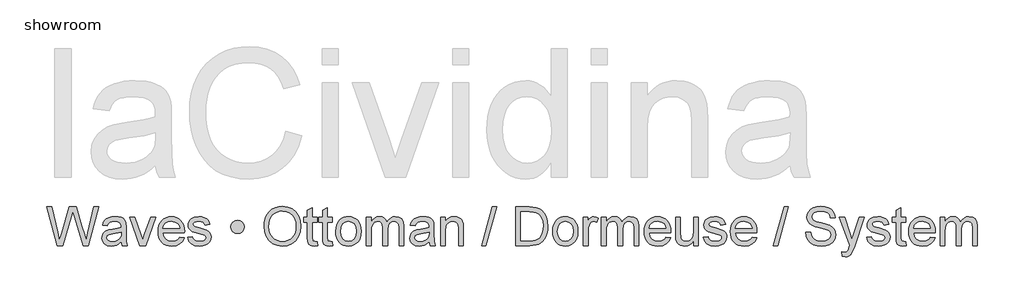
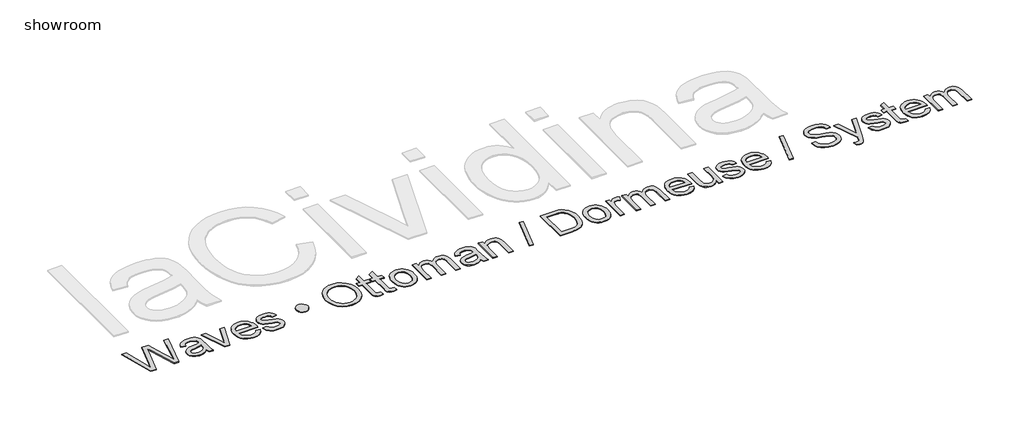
# One storey, part 2 of 3: 1 proxy.
"""IFC4 building model written with IfcOpenShell, lengths in millimetres."""

import ifcopenshell
import ifcopenshell.guid

model = None  # the IFC model being written
_history = None  # IfcOwnerHistory: only IFC2X3 demands one
_inside = {}  # id of a spatial element -> (the spatial element, [elements in it])
_under = {}  # id of a project, library or spatial element -> (it, [spatial elements below it])
_declared = {}  # id of a project -> (the project, [libraries it declares])
_typed = {}  # id of a type object -> (the type object, [elements of that type])
_made_of = {}  # id of a material, layer set ... -> (it, [elements and type objects made of it])


def new_model(schema):
    """Start an empty IFC model of exactly this schema.

    Asked for "IFC4X3", IfcOpenShell would pick the latest addendum, in which some entities
    have other attributes; the version numbers below select the first issue.
    IFC2X3 requires an IfcOwnerHistory on every rooted entity: one is made here for all.
    """
    global model, _history
    if schema == "IFC4X3":
        model = ifcopenshell.file(schema_version=(4, 3, 0, 0))
    else:
        model = ifcopenshell.file(schema=schema)
    _inside.clear()
    _under.clear()
    _declared.clear()
    _typed.clear()
    _made_of.clear()
    _history = None
    if model.schema == "IFC2X3":
        org = make("IfcOrganization", Name="unknown")
        user = make(
            "IfcPersonAndOrganization",
            ThePerson=make("IfcPerson", FamilyName="unknown"),
            TheOrganization=org,
        )
        app = make(
            "IfcApplication",
            ApplicationDeveloper=org,
            Version="unknown",
            ApplicationFullName="unknown",
            ApplicationIdentifier="unknown",
        )
        _history = make(
            "IfcOwnerHistory",
            OwningUser=user,
            OwningApplication=app,
            ChangeAction="ADDED",
            CreationDate=0,
        )
    return model


def make(cls, **values):
    """One entity of the class cls with the attributes given. An attribute that is None is left unset."""
    return model.create_entity(
        cls, **{name: value for name, value in values.items() if value is not None}
    )


def rooted(cls, **values):
    """An entity with a GlobalId (a new one), such as an element, a storey or a relation."""
    return make(cls, GlobalId=ifcopenshell.guid.new(), OwnerHistory=_history, **values)


def si_unit(unit_type, name, prefix=None):
    """IfcSIUnit, for example si_unit("LENGTHUNIT", "METRE", prefix="MILLI")."""
    return make("IfcSIUnit", UnitType=unit_type, Prefix=prefix, Name=name)


def assignment(units):
    """IfcUnitAssignment: the units of a project."""
    return None if units is None else make("IfcUnitAssignment", Units=units)


def point(xyz):
    """IfcCartesianPoint."""
    return None if xyz is None else make("IfcCartesianPoint", Coordinates=xyz)


def direction(xyz):
    """IfcDirection."""
    return None if xyz is None else make("IfcDirection", DirectionRatios=xyz)


def frame(location, z_axis=None, x_axis=None):
    """IfcAxis2Placement3D, a coordinate frame: its origin and axes. An axis left out is left unset."""
    return make(
        "IfcAxis2Placement3D",
        Location=point(location),
        Axis=direction(z_axis),
        RefDirection=direction(x_axis),
    )


def origin():
    """The frame at (0, 0, 0) with its axes left unset."""
    return frame((0.0, 0.0, 0.0))


def origin_with_axes():
    """The frame at (0, 0, 0) with the z axis (0, 0, 1) and the x axis (1, 0, 0) written out."""
    return frame((0.0, 0.0, 0.0), z_axis=(0.0, 0.0, 1.0), x_axis=(1.0, 0.0, 0.0))


def place(relative_to, where):
    """IfcLocalPlacement: puts the frame where relative to a parent placement (None: the world)."""
    return make(
        "IfcLocalPlacement", PlacementRelTo=relative_to, RelativePlacement=where
    )


def context(
    kind, dimensions, precision=None, world=None, true_north=None, identifier=None
):
    """IfcGeometricRepresentationContext, for example the 3D "Model" context."""
    return make(
        "IfcGeometricRepresentationContext",
        ContextIdentifier=identifier,
        ContextType=kind,
        CoordinateSpaceDimension=dimensions,
        Precision=precision,
        WorldCoordinateSystem=world,
        TrueNorth=true_north,
    )


def project(units=None, contexts=None):
    """IfcProject with its units and contexts."""
    return rooted(
        "IfcProject",
        Name="project",
        RepresentationContexts=contexts,
        UnitsInContext=assignment(units),
    )


def spatial(cls, under=None, at=None, **own):
    """A site, building, storey or space (cls), placed at a placement, below another one or the project."""
    s = rooted(cls, ObjectPlacement=at, **own)
    if under is not None:
        _under.setdefault(under.id(), (under, []))[1].append(s)
    return s


def polyline(points):
    """IfcPolyline through the points."""
    return make("IfcPolyline", Points=[point(p) for p in points])


def outline(outer, holes=None, kind="AREA"):
    """IfcArbitraryClosedProfileDef: a profile drawn as a closed curve; with holes, ...WithVoids."""
    if holes is None:
        return make("IfcArbitraryClosedProfileDef", ProfileType=kind, OuterCurve=outer)
    return make(
        "IfcArbitraryProfileDefWithVoids",
        ProfileType=kind,
        OuterCurve=outer,
        InnerCurves=holes,
    )


def extrude(swept, where, along, depth):
    """IfcExtrudedAreaSolid: the profile swept, set in the frame where, extruded along a direction by depth."""
    return make(
        "IfcExtrudedAreaSolid",
        SweptArea=swept,
        Position=where,
        ExtrudedDirection=direction(along),
        Depth=depth,
    )


def shape(context_of_items, identifier, shape_type, items):
    """IfcShapeRepresentation: the items that make up one representation, for example the "Body"."""
    return make(
        "IfcShapeRepresentation",
        ContextOfItems=context_of_items,
        RepresentationIdentifier=identifier,
        RepresentationType=shape_type,
        Items=items,
    )


def made_of(thing, what):
    """Note that an element or type object is made of a material, layer set ...; save() writes the relation."""
    if what is not None:
        _made_of.setdefault(what.id(), (what, []))[1].append(thing)
    return thing


def element(
    cls,
    number,
    at=None,
    inside=None,
    cuts=None,
    type_object=None,
    material=None,
    context=None,
    identifier="Body",
    shape_type=None,
    held_by="IfcProductDefinitionShape",
    body=None,
    shapes=None,
    **own,
):
    """One element of the class cls, such as IfcWall. Its Tag is "e" and its number.

    at: its placement. inside: the storey or other place that contains it. cuts: it is an
    opening in that element (IfcRelVoidsElement). A single representation is given by context,
    identifier, shape_type and body (its items); several are given by shapes. held_by: the class
    of the entity that holds the representations. save() writes the other relations.
    """
    e = rooted(cls, Tag="e%d" % number, ObjectPlacement=at, **own)
    if body is not None:
        shapes = [shape(context, identifier, shape_type, body)]
    if shapes is not None:
        e.Representation = make(held_by, Representations=shapes)
    if inside is not None:
        _inside.setdefault(inside.id(), (inside, []))[1].append(e)
    if cuts is not None:
        rooted(
            "IfcRelVoidsElement", RelatingBuildingElement=cuts, RelatedOpeningElement=e
        )
    if type_object is not None:
        _typed.setdefault(type_object.id(), (type_object, []))[1].append(e)
    return made_of(e, material)


def aggregate(whole, parts):
    """IfcRelAggregates: a whole, such as a stair, and the parts it consists of."""
    return rooted("IfcRelAggregates", RelatingObject=whole, RelatedObjects=parts)


def save(model, path):
    """Write the relations noted so far, then the file.

    IfcRelAggregates (storeys below a building ...), IfcRelContainedInSpatialStructure (elements
    in a storey), IfcRelDefinesByType, IfcRelAssociatesMaterial and IfcRelDeclares: one each for
    every whole, place, type object, material and project.
    """
    for whole, parts in _under.values():
        aggregate(whole, parts)
    for where, things in _inside.values():
        rooted(
            "IfcRelContainedInSpatialStructure",
            RelatedElements=things,
            RelatingStructure=where,
        )
    for kind, things in _typed.values():
        rooted("IfcRelDefinesByType", RelatedObjects=things, RelatingType=kind)
    for what, things in _made_of.values():
        rooted("IfcRelAssociatesMaterial", RelatedObjects=things, RelatingMaterial=what)
    for by, libraries in _declared.values():
        rooted("IfcRelDeclares", RelatingContext=by, RelatedDefinitions=libraries)
    model.write(path)


model = new_model("IFC4")

# Units and contexts
model_context = context("Model", 3, world=origin())
ifc_project = project(units=[si_unit("LENGTHUNIT", "METRE", prefix="MILLI")], contexts=[model_context])

# Site, building, storey
site = spatial("IfcSite", under=ifc_project)
building = spatial("IfcBuilding", under=site)
storey = spatial("IfcBuildingStorey", under=building, Name="showroom", Elevation=0.0)

# Proxy
placement = place(None, origin())
element("IfcBuildingElementProxy", 1, Name="300mm Arial", ObjectType="300mm Arial", at=placement, inside=storey, context=model_context, shape_type="SweptSolid", body=[
    extrude(outline(polyline([(-1936.4305971, 4160.1020807), (-2018.6154349, 4461.4710111), (-1979.7670962, 4461.4710111), (-1932.0895896, 4263.4033449), (-1917.3743098, 4202.2613573), (-1901.6289604, 4256.3400106), (-1841.8849244, 4461.4710111), (-1785.8932847, 4461.4710111), (-1742.4832093, 4312.7731087), (-1723.8867744, 4257.5908094), (-1710.1831701, 4202.2613573), (-1695.9093487, 4261.6375113), (-1647.7903837, 4461.4710111), (-1608.942045, 4461.4710111), (-1691.2004592, 4160.1020807), (-1731.4467494, 4160.1020807), (-1803.6987733, 4392.6035016), (-1813.77874, 4425.0506936), (-1825.1095054, 4385.9816257), (-1890.9603825, 4160.1020807), (-1936.4305971, 4160.1020807)])), origin_with_axes(), (0.0, 0.0, 1.0), 5.0),
    extrude(outline(polyline([(-1434.7131321, 4188.3554179), (-1452.7117587, 4172.9227682), (-1471.2438142, 4162.8244074), (-1490.7323629, 4157.2509952), (-1511.6004691, 4155.3931911), (-1543.0819708, 4159.8629574), (-1566.3045218, 4173.2722561), (-1580.6243285, 4193.6345245), (-1585.3975973, 4218.9631999), (-1583.5949756, 4234.5797906), (-1578.1871102, 4248.7616415), (-1569.845386, 4260.9017474), (-1559.2411875, 4270.3931028), (-1532.8640484, 4282.7539379), (-1500.2697037, 4288.4193206), (-1461.7524588, 4294.3790089), (-1434.9338613, 4301.3687668), (-1434.7131321, 4309.7564763), (-1437.3067002, 4326.5686835), (-1445.0874044, 4337.5683551), (-1462.4882228, 4345.7353354), (-1486.7316462, 4348.4576622), (-1509.1724479, 4346.6458434), (-1524.8442209, 4341.2103869), (-1535.5311929, 4331.1580114), (-1543.0175915, 4315.4954354), (-1580.6887078, 4320.204325), (-1574.1496053, 4340.8057167), (-1564.3915354, 4356.9925245), (-1550.5039901, 4369.3717536), (-1531.5764614, 4378.5504094), (-1508.4274869, 4384.2341862), (-1481.8756039, 4386.1287785), (-1456.4089728, 4384.4549154), (-1436.2214483, 4379.4333262), (-1421.0003307, 4371.8825482), (-1410.4329204, 4362.621119), (-1403.4247684, 4351.1707919), (-1398.8814258, 4337.0533204), (-1397.0420158, 4304.0910936), (-1397.0420158, 4257.2229274), (-1395.1290294, 4191.7767205), (-1387.6242367, 4160.1020807), (-1425.295353, 4160.1020807), (-1434.7131321, 4188.3554179)]), holes=[polyline([(-1434.7131321, 4263.6976505), (-1495.4872377, 4252.1461559), (-1527.8976415, 4246.0393147), (-1542.5761331, 4236.1065009), (-1547.726481, 4221.6119503), (-1544.9213808, 4210.4099435), (-1536.5060802, 4201.2312877), (-1522.6645201, 4195.1060525), (-1503.5806416, 4193.0643074), (-1483.3471319, 4195.3175847), (-1465.4680669, 4202.0774163), (-1450.9735163, 4212.0378213), (-1440.8935496, 4223.8928186), (-1436.4237834, 4236.1065009), (-1434.9338613, 4253.0290727), (-1434.7131321, 4263.6976505)])]), origin_with_axes(), (0.0, 0.0, 1.0), 5.0),
    extrude(outline(polyline([(-1290.9448484, 4160.1020807), (-1368.7886786, 4381.419889), (-1328.9102703, 4381.419889), (-1281.7477985, 4248.8352179), (-1267.5475535, 4204.2479201), (-1253.6416141, 4246.3336203), (-1206.1848367, 4381.419889), (-1166.3064284, 4381.419889), (-1243.1937654, 4160.1020807), (-1290.9448484, 4160.1020807)])), origin_with_axes(), (0.0, 0.0, 1.0), 5.0),
    extrude(outline(polyline([(-978.3923053, 4226.0265342), (-941.456953, 4221.3176447), (-954.7650842, 4193.4873717), (-976.0010723, 4172.6836449), (-1004.6866709, 4159.7158046), (-1040.3436333, 4155.3931911), (-1063.7179356, 4157.257893), (-1084.544655, 4162.8519986), (-1102.8237916, 4172.1755079), (-1118.5553455, 4185.2284209), (-1131.2058876, 4201.6474542), (-1140.2419891, 4221.0693243), (-1145.66365, 4243.4940312), (-1147.4708703, 4268.9215748), (-1145.6452559, 4295.2113419), (-1140.1684127, 4318.3833091), (-1131.0403407, 4338.4374764), (-1118.2610399, 4355.3738437), (-1102.5708728, 4368.8291277), (-1084.7102019, 4378.4400448), (-1064.6790273, 4384.2065951), (-1042.4773489, 4386.1287785), (-1020.9907411, 4384.2111936), (-1001.5596739, 4378.4584389), (-984.1841475, 4368.8705144), (-968.8641616, 4355.4474201), (-956.3584731, 4338.547841), (-947.4258384, 4318.5304619), (-942.0662575, 4295.3952829), (-940.2797306, 4269.142304), (-940.5004598, 4258.988761), (-1109.799754, 4258.988761), (-1103.2790456, 4230.790606), (-1088.1315045, 4210.0604556), (-1066.2701169, 4197.3133445), (-1039.6078693, 4193.0643074), (-1019.5583006, 4195.0324761), (-1002.672517, 4200.9369821), (-988.9505186, 4211.1457075), (-978.3923053, 4226.0265342)]), holes=[polyline([(-1109.799754, 4296.6598773), (-977.9508469, 4296.6598773), (-983.0460125, 4316.5622932), (-993.0340087, 4330.7993264), (-1014.9965638, 4344.0430783), (-1042.6245017, 4348.4576622), (-1068.0175564, 4344.9351921), (-1089.0144213, 4334.3677818), (-1103.6101394, 4317.8958655), (-1109.799754, 4296.6598773)])]), origin_with_axes(), (0.0, 0.0, 1.0), 5.0),
    extrude(outline(polyline([(-916.7352829, 4226.0265342), (-879.0641666, 4230.7354237), (-873.1228724, 4214.6221924), (-861.62656, 4202.7763921), (-844.5016532, 4195.4923286), (-821.6745754, 4193.0643074), (-799.1234091, 4195.2899935), (-783.2676951, 4201.9670517), (-773.8867042, 4211.6423482), (-770.7597072, 4222.862749), (-773.9050983, 4232.4644691), (-783.3412715, 4239.7853208), (-822.1160338, 4250.5274751), (-878.8434374, 4268.958363), (-893.2000323, 4278.2197923), (-903.6018957, 4290.4794598), (-909.920269, 4304.9556163), (-912.0263934, 4320.8665126), (-910.3341362, 4335.4622307), (-905.2573647, 4348.9359088), (-897.2559313, 4360.7541179), (-886.7896885, 4370.3834291), (-862.8405706, 4381.5302536), (-830.4301668, 4386.1287785), (-805.9108319, 4384.2801715), (-784.5920702, 4378.7343504), (-767.4487693, 4370.0339412), (-755.4558162, 4358.7215699), (-747.5095651, 4343.9603048), (-742.50637, 4324.9132145), (-780.1774863, 4320.204325), (-784.9323611, 4332.0593223), (-794.3409431, 4340.9896577), (-808.4952029, 4346.5906611), (-827.4871109, 4348.4576622), (-849.1185722, 4346.6734345), (-863.5395464, 4341.3207515), (-871.6513444, 4333.5952296), (-874.3552771, 4324.6924853), (-869.8671167, 4313.7296019), (-855.8140245, 4305.4154688), (-823.3668325, 4297.3956413), (-768.0741687, 4279.6637291), (-753.4692535, 4271.1840491), (-742.3960054, 4259.5773722), (-735.4154445, 4244.8069101), (-733.0885909, 4226.8358746), (-735.8201147, 4208.2578338), (-744.0146862, 4190.7834391), (-757.3596056, 4175.7830507), (-775.5421732, 4164.6270292), (-797.5047283, 4157.7016507), (-822.1896102, 4155.3931911), (-860.1734262, 4159.8445633), (-887.8933345, 4173.1986797), (-906.3977988, 4195.3083876), (-916.7352829, 4226.0265342)])), origin_with_axes(), (0.0, 0.0, 1.0), 5.0),
    extrude(outline(polyline([(-577.6952362, 4306.1512328), (-573.8876575, 4326.0444516), (-562.4649216, 4342.7554913), (-545.7262908, 4354.0954538), (-525.9710276, 4357.8754413), (-506.1053999, 4354.0954538), (-489.3299809, 4342.7554913), (-477.907245, 4326.0444516), (-474.0996663, 4306.1512328), (-477.907245, 4286.285605), (-489.3299809, 4269.510186), (-506.1053999, 4258.0874501), (-525.9710276, 4254.2798714), (-545.7262908, 4258.0874501), (-562.4649216, 4269.510186), (-573.8876575, 4286.285605), (-577.6952362, 4306.1512328)])), origin_with_axes(), (0.0, 0.0, 1.0), 5.0),
    extrude(outline(polyline([(-318.7063116, 4306.8134203), (-316.1955169, 4342.1622816), (-308.6631331, 4373.4552438), (-296.10916, 4400.692307), (-278.5335977, 4423.8734712), (-256.9895083, 4442.3825341), (-232.5299542, 4455.6032933), (-205.1549352, 4463.5357488), (-174.8644514, 4466.1799007), (-135.3355311, 4461.2134937), (-99.8901008, 4446.3142729), (-70.4595412, 4422.5307019), (-48.9752327, 4390.9112444), (-35.8418455, 4352.9826107), (-31.4640497, 4310.2715111), (-36.0717717, 4266.9901944), (-49.8949377, 4228.5281318), (-72.1701925, 4196.853492), (-102.134181, 4173.9344437), (-137.2761086, 4160.0285043), (-175.0851806, 4155.3931911), (-215.2211063, 4160.5159479), (-250.8688716, 4175.8842183), (-280.2258549, 4200.1092476), (-301.4894342, 4231.8022815), (-314.4020922, 4268.2685843), (-318.7063116, 4306.8134203)]), holes=[polyline([(-281.0351952, 4306.4455384), (-279.1520993, 4281.4709494), (-273.5028114, 4259.3014607), (-264.0873316, 4239.9370721), (-250.9056598, 4223.3777838), (-234.8820997, 4210.1156379), (-216.9409546, 4200.6426765), (-197.0822247, 4194.9588997), (-175.3059098, 4193.0643074), (-153.1571145, 4194.9772938), (-133.0638597, 4200.7162529), (-115.0261457, 4210.2811848), (-99.0439722, 4223.6720894), (-85.9588695, 4240.5808656), (-76.6123676, 4260.6994123), (-71.0044664, 4284.0277293), (-69.135166, 4310.5658167), (-72.3357394, 4343.9143196), (-81.9374595, 4372.7378739), (-97.6920059, 4396.3099127), (-119.3510584, 4413.9038691), (-145.4798771, 4424.8575556), (-174.6437222, 4428.5087844), (-195.6635797, 4426.7498486), (-215.165924, 4421.4730412), (-233.150755, 4412.6783622), (-249.6180729, 4400.3658117), (-263.3630639, 4383.9421799), (-273.1809146, 4362.8142571), (-279.0716251, 4336.9820432), (-281.0351952, 4306.4455384)])]), origin_with_axes(), (0.0, 0.0, 1.0), 5.0),
    extrude(outline(polyline([(95.6759678, 4191.5192031), (100.3848574, 4158.9984347), (72.2050965, 4155.3931911), (54.1236965, 4156.9566896), (40.6408213, 4161.6471851), (31.1126777, 4168.8760663), (24.8954719, 4178.054722), (21.4741694, 4193.8184655), (20.3337352, 4220.8026099), (20.3337352, 4343.7487727), (-7.919602, 4343.7487727), (-7.919602, 4381.419889), (20.3337352, 4381.419889), (20.3337352, 4435.2042367), (58.0048515, 4457.3507328), (58.0048515, 4381.419889), (95.6759678, 4381.419889), (95.6759678, 4343.7487727), (58.0048515, 4343.7487727), (58.0048515, 4221.9062559), (59.9914143, 4202.4820865), (66.4293492, 4195.6026932), (79.2684308, 4193.0643074), (95.6759678, 4191.5192031)])), origin_with_axes(), (0.0, 0.0, 1.0), 5.0),
    extrude(outline(polyline([(213.3982063, 4191.5192031), (218.1070958, 4158.9984347), (189.927335, 4155.3931911), (171.8459349, 4156.9566896), (158.3630598, 4161.6471851), (148.8349161, 4168.8760663), (142.6177104, 4178.054722), (139.1964078, 4193.8184655), (138.0559737, 4220.8026099), (138.0559737, 4343.7487727), (109.8026364, 4343.7487727), (109.8026364, 4381.419889), (138.0559737, 4381.419889), (138.0559737, 4435.2042367), (175.72709, 4457.3507328), (175.72709, 4381.419889), (213.3982063, 4381.419889), (213.3982063, 4343.7487727), (175.72709, 4343.7487727), (175.72709, 4221.9062559), (177.7136527, 4202.4820865), (184.1515877, 4195.6026932), (196.9906693, 4193.0643074), (213.3982063, 4191.5192031)])), origin_with_axes(), (0.0, 0.0, 1.0), 5.0),
    extrude(outline(polyline([(241.6515435, 4270.7609848), (243.68869, 4299.4235908), (249.8001297, 4324.1222682), (259.9858624, 4344.8570172), (274.2458883, 4361.6278376), (288.6024831, 4372.3469993), (304.4490001, 4380.0035433), (321.7854391, 4384.5974697), (340.6118002, 4386.1287785), (361.3948337, 4384.2640766), (380.1867058, 4378.6699711), (396.9874167, 4369.3464617), (411.7969663, 4356.2935487), (423.8841891, 4339.9526903), (432.5179196, 4320.765345), (437.698158, 4298.7315128), (439.4249041, 4273.8511936), (436.3714835, 4235.7938012), (427.2112219, 4206.8230941), (412.2108335, 4185.1272534), (391.6370329, 4168.8944604), (367.2004714, 4158.7685084), (340.6118002, 4155.3931911), (319.5252641, 4157.2509952), (300.558648, 4162.8244074), (283.7119519, 4172.1134278), (268.9851757, 4185.1180563), (257.0267116, 4201.6175638), (248.4849516, 4221.3912211), (243.3598955, 4244.4390281), (241.6515435, 4270.7609848)]), holes=[polyline([(279.3226598, 4270.8345612), (283.6820615, 4236.7410973), (296.7602664, 4212.4516886), (316.4419531, 4197.9111527), (340.6118002, 4193.0643074), (364.6712827, 4197.9387439), (384.3161812, 4212.5620532), (397.3943862, 4237.1733587), (401.7537878, 4272.0117836), (397.366795, 4305.1119661), (384.2058166, 4329.0702811), (364.5333269, 4343.6108169), (340.6118002, 4348.4576622), (316.4419531, 4343.629211), (296.7602664, 4329.1438575), (283.6820615, 4304.909631), (279.3226598, 4270.8345612)])]), origin_with_axes(), (0.0, 0.0, 1.0), 5.0),
    extrude(outline(polyline([(481.80491, 4160.1020807), (481.80491, 4381.419889), (519.4760263, 4381.419889), (519.4760263, 4344.9995714), (530.8067917, 4361.7290052), (545.3749187, 4374.8348013), (562.6837666, 4383.3052842), (582.2366946, 4386.1287785), (603.1875743, 4383.2501019), (619.9813873, 4374.6140721), (632.5261634, 4360.7909061), (640.7299319, 4342.3508211), (654.4611273, 4361.5036775), (670.1237033, 4375.1842892), (687.7176597, 4383.3926562), (707.2429966, 4386.1287785), (735.5607132, 4381.5762388), (756.5023958, 4367.9186197), (769.4426449, 4344.7880393), (773.7560613, 4311.8166155), (773.7560613, 4160.1020807), (736.084945, 4160.1020807), (736.084945, 4295.6298077), (732.5900661, 4327.0837183), (727.6788414, 4335.7565363), (719.9349254, 4342.5715503), (709.9745204, 4346.9861342), (698.4138287, 4348.4576622), (678.005575, 4344.6868718), (661.3681118, 4333.3745004), (650.3040608, 4313.747996), (646.6160438, 4285.0348062), (646.6160438, 4160.1020807), (608.9449275, 4160.1020807), (608.9449275, 4299.8236624), (606.7652267, 4321.12403), (600.2261242, 4336.3175564), (588.7206148, 4345.4226357), (571.6416932, 4348.4576622), (557.1287485, 4346.4343112), (543.7562379, 4340.3642583), (532.7197781, 4330.3946562), (525.2149854, 4316.6726578), (520.910766, 4297.6347646), (519.4760263, 4271.717478), (519.4760263, 4160.1020807), (481.80491, 4160.1020807)])), origin_with_axes(), (0.0, 0.0, 1.0), 5.0),
    extrude(outline(polyline([(971.5294219, 4188.3554179), (953.5307953, 4172.9227682), (934.9987398, 4162.8244074), (915.5101911, 4157.2509952), (894.6420849, 4155.3931911), (863.1605832, 4159.8629574), (839.9380323, 4173.2722561), (825.6182256, 4193.6345245), (820.8449567, 4218.9631999), (822.6475785, 4234.5797906), (828.0554438, 4248.7616415), (836.3971681, 4260.9017474), (847.0013666, 4270.3931028), (873.3785056, 4282.7539379), (905.9728504, 4288.4193206), (944.4900953, 4294.3790089), (971.3086927, 4301.3687668), (971.5294219, 4309.7564763), (968.9358539, 4326.5686835), (961.1551497, 4337.5683551), (943.7543313, 4345.7353354), (919.5109078, 4348.4576622), (897.0701061, 4346.6458434), (881.3983331, 4341.2103869), (870.7113612, 4331.1580114), (863.2249626, 4315.4954354), (825.5538462, 4320.204325), (832.0929487, 4340.8057167), (841.8510186, 4356.9925245), (855.738564, 4369.3717536), (874.6660926, 4378.5504094), (897.8150671, 4384.2341862), (924.3669502, 4386.1287785), (949.8335813, 4384.4549154), (970.0211058, 4379.4333262), (985.2422233, 4371.8825482), (995.8096336, 4362.621119), (1002.8177856, 4351.1707919), (1007.3611283, 4337.0533204), (1009.2005382, 4304.0910936), (1009.2005382, 4257.2229274), (1011.1135246, 4191.7767205), (1018.6183173, 4160.1020807), (980.947201, 4160.1020807), (971.5294219, 4188.3554179)]), holes=[polyline([(971.5294219, 4263.6976505), (910.7553163, 4252.1461559), (878.3449126, 4246.0393147), (863.6664209, 4236.1065009), (858.516073, 4221.6119503), (861.3211732, 4210.4099435), (869.7364739, 4201.2312877), (883.5780339, 4195.1060525), (902.6619124, 4193.0643074), (922.8954222, 4195.3175847), (940.7744871, 4202.0774163), (955.2690377, 4212.0378213), (965.3490044, 4223.8928186), (969.8187707, 4236.1065009), (971.3086927, 4253.0290727), (971.5294219, 4263.6976505)])]), origin_with_axes(), (0.0, 0.0, 1.0), 5.0),
    extrude(outline(polyline([(1060.9983232, 4160.1020807), (1060.9983232, 4381.419889), (1098.6694395, 4381.419889), (1098.6694395, 4350.5178014), (1111.7568414, 4366.0976039), (1127.4745997, 4377.2260342), (1145.8227142, 4383.9030924), (1166.801185, 4386.1287785), (1185.3700287, 4384.3353538), (1202.3753739, 4378.9550796), (1216.5572248, 4370.6593406), (1226.6555856, 4360.1195214), (1237.9495628, 4332.4180072), (1239.9361256, 4295.9976897), (1239.9361256, 4160.1020807), (1202.2650093, 4160.1020807), (1202.2650093, 4290.9209182), (1197.9240018, 4324.2510269), (1191.9183282, 4334.1746437), (1182.5833226, 4341.8725745), (1170.6179607, 4346.8113903), (1156.7212183, 4348.4576622), (1134.6574956, 4344.7604482), (1115.8495286, 4333.668806), (1108.3332396, 4324.6143104), (1102.9644618, 4312.2396798), (1098.6694395, 4277.5300135), (1098.6694395, 4160.1020807), (1060.9983232, 4160.1020807)])), origin_with_axes(), (0.0, 0.0, 1.0), 5.0),
    extrude(outline(polyline([(1381.2028118, 4160.1020807), (1465.9628235, 4461.4710111), (1499.9551198, 4461.4710111), (1415.1951081, 4160.1020807), (1381.2028118, 4160.1020807)])), origin_with_axes(), (0.0, 0.0, 1.0), 5.0),
    extrude(outline(polyline([(1649.6095154, 4160.1020807), (1649.6095154, 4461.4710111), (1753.5729673, 4461.4710111), (1807.357315, 4457.1300036), (1831.3800093, 4448.7606882), (1851.6503072, 4435.5721187), (1872.4908222, 4412.6162822), (1887.3348607, 4384.0686393), (1896.2192109, 4350.4810132), (1899.180661, 4312.4052267), (1897.1757041, 4280.0592022), (1891.1608335, 4251.5943329), (1882.0005718, 4227.3601064), (1870.5594417, 4207.7060108), (1857.3892663, 4192.1905877), (1843.0418685, 4180.3723786), (1826.5699522, 4171.6075901), (1807.0262212, 4165.2524286), (1758.5761624, 4160.1020807), (1649.6095154, 4160.1020807)]), holes=[polyline([(1687.2806317, 4197.773197), (1753.9408493, 4197.773197), (1781.5136048, 4199.1343604), (1802.4276962, 4203.2178505), (1818.2098338, 4209.7845441), (1830.3867279, 4218.5953179), (1843.4741299, 4234.9016873), (1853.3057762, 4256.0089168), (1859.4586025, 4282.0089768), (1861.5095447, 4312.9938379), (1857.4904339, 4354.0494685), (1845.4331015, 4384.3629449), (1827.6184159, 4405.1850659), (1806.3272454, 4417.7666301), (1784.6589959, 4422.2915786), (1752.9107797, 4423.7998948), (1687.2806317, 4423.7998948), (1687.2806317, 4197.773197)])]), origin_with_axes(), (0.0, 0.0, 1.0), 5.0),
    extrude(outline(polyline([(1936.8517773, 4270.7609848), (1938.8889238, 4299.4235908), (1945.0003635, 4324.1222682), (1955.1860962, 4344.8570172), (1969.446122, 4361.6278376), (1983.8027169, 4372.3469993), (1999.6492339, 4380.0035433), (2016.9856729, 4384.5974697), (2035.812034, 4386.1287785), (2056.5950674, 4384.2640766), (2075.3869396, 4378.6699711), (2092.1876505, 4369.3464617), (2106.9972, 4356.2935487), (2119.0844228, 4339.9526903), (2127.7181534, 4320.765345), (2132.8983918, 4298.7315128), (2134.6251379, 4273.8511936), (2131.5717173, 4235.7938012), (2122.4114556, 4206.8230941), (2107.4110673, 4185.1272534), (2086.8372667, 4168.8944604), (2062.4007052, 4158.7685084), (2035.812034, 4155.3931911), (2014.7254979, 4157.2509952), (1995.7588818, 4162.8244074), (1978.9121856, 4172.1134278), (1964.1854095, 4185.1180563), (1952.2269454, 4201.6175638), (1943.6851853, 4221.3912211), (1938.5601293, 4244.4390281), (1936.8517773, 4270.7609848)]), holes=[polyline([(1974.5228936, 4270.8345612), (1978.8822952, 4236.7410973), (1991.9605002, 4212.4516886), (2011.6421869, 4197.9111527), (2035.812034, 4193.0643074), (2059.8715165, 4197.9387439), (2079.516415, 4212.5620532), (2092.5946199, 4237.1733587), (2096.9540216, 4272.0117836), (2092.5670288, 4305.1119661), (2079.4060504, 4329.0702811), (2059.7335607, 4343.6108169), (2035.812034, 4348.4576622), (2011.6421869, 4343.629211), (1991.9605002, 4329.1438575), (1978.8822952, 4304.909631), (1974.5228936, 4270.8345612)])]), origin_with_axes(), (0.0, 0.0, 1.0), 5.0),
    extrude(outline(polyline([(2177.0051437, 4160.1020807), (2177.0051437, 4381.419889), (2209.9673705, 4381.419889), (2209.9673705, 4348.6783914), (2222.1442645, 4367.6611024), (2233.3646654, 4378.844715), (2244.6218544, 4384.3077626), (2256.9091131, 4386.1287785), (2275.6710948, 4383.2225107), (2294.7273822, 4374.5037075), (2282.1458179, 4340.7321403), (2268.9020661, 4346.5262817), (2255.6583143, 4348.4576622), (2244.4103223, 4346.5998581), (2234.3579468, 4341.0264459), (2226.2369517, 4332.1604898), (2220.7831012, 4320.4250542), (2216.2029703, 4299.382204), (2214.67626, 4276.4263675), (2214.67626, 4160.1020807), (2177.0051437, 4160.1020807)])), origin_with_axes(), (0.0, 0.0, 1.0), 5.0),
    extrude(outline(polyline([(2318.2718299, 4160.1020807), (2318.2718299, 4381.419889), (2355.9429462, 4381.419889), (2355.9429462, 4344.9995714), (2367.2737116, 4361.7290052), (2381.8418386, 4374.8348013), (2399.1506865, 4383.3052842), (2418.7036146, 4386.1287785), (2439.6544942, 4383.2501019), (2456.4483073, 4374.6140721), (2468.9930833, 4360.7909061), (2477.1968518, 4342.3508211), (2490.9280473, 4361.5036775), (2506.5906232, 4375.1842892), (2524.1845796, 4383.3926562), (2543.7099165, 4386.1287785), (2572.0276331, 4381.5762388), (2592.9693157, 4367.9186197), (2605.9095649, 4344.7880393), (2610.2229812, 4311.8166155), (2610.2229812, 4160.1020807), (2572.5518649, 4160.1020807), (2572.5518649, 4295.6298077), (2569.056986, 4327.0837183), (2564.1457614, 4335.7565363), (2556.4018454, 4342.5715503), (2546.4414403, 4346.9861342), (2534.8807486, 4348.4576622), (2514.472495, 4344.6868718), (2497.8350317, 4333.3745004), (2486.7709807, 4313.747996), (2483.0829637, 4285.0348062), (2483.0829637, 4160.1020807), (2445.4118474, 4160.1020807), (2445.4118474, 4299.8236624), (2443.2321466, 4321.12403), (2436.6930441, 4336.3175564), (2425.1875347, 4345.4226357), (2408.1086131, 4348.4576622), (2393.5956684, 4346.4343112), (2380.2231579, 4340.3642583), (2369.186698, 4330.3946562), (2361.6819053, 4316.6726578), (2357.377686, 4297.6347646), (2355.9429462, 4271.717478), (2355.9429462, 4160.1020807), (2318.2718299, 4160.1020807)])), origin_with_axes(), (0.0, 0.0, 1.0), 5.0),
    extrude(outline(polyline([(2821.6815521, 4226.0265342), (2858.6169044, 4221.3176447), (2845.3087732, 4193.4873717), (2824.072785, 4172.6836449), (2795.3871865, 4159.7158046), (2759.7302241, 4155.3931911), (2736.3559218, 4157.257893), (2715.5292024, 4162.8519986), (2697.2500657, 4172.1755079), (2681.5185119, 4185.2284209), (2668.8679698, 4201.6474542), (2659.8318683, 4221.0693243), (2654.4102074, 4243.4940312), (2652.6029871, 4268.9215748), (2654.4286015, 4295.2113419), (2659.9054447, 4318.3833091), (2669.0335167, 4338.4374764), (2681.8128175, 4355.3738437), (2697.5029846, 4368.8291277), (2715.3636555, 4378.4400448), (2735.3948301, 4384.2065951), (2757.5965085, 4386.1287785), (2779.0831163, 4384.2111936), (2798.5141834, 4378.4584389), (2815.8897099, 4368.8705144), (2831.2096958, 4355.4474201), (2843.7153843, 4338.547841), (2852.648019, 4318.5304619), (2858.0075998, 4295.3952829), (2859.7941268, 4269.142304), (2859.5733976, 4258.988761), (2690.2741034, 4258.988761), (2696.7948118, 4230.790606), (2711.9423529, 4210.0604556), (2733.8037405, 4197.3133445), (2760.4659881, 4193.0643074), (2780.5155568, 4195.0324761), (2797.4013404, 4200.9369821), (2811.1233388, 4211.1457075), (2821.6815521, 4226.0265342)]), holes=[polyline([(2690.2741034, 4296.6598773), (2822.1230105, 4296.6598773), (2817.0278448, 4316.5622932), (2807.0398487, 4330.7993264), (2785.0772936, 4344.0430783), (2757.4493557, 4348.4576622), (2732.056301, 4344.9351921), (2711.0594361, 4334.3677818), (2696.463718, 4317.8958655), (2690.2741034, 4296.6598773)])]), origin_with_axes(), (0.0, 0.0, 1.0), 5.0),
    extrude(outline(polyline([(3038.7319292, 4160.1020807), (3038.7319292, 4198.141079), (3025.1019013, 4179.438878), (3009.2277932, 4166.0801631), (2991.109605, 4158.0649341), (2970.7473365, 4155.3931911), (2952.399222, 4157.2693893), (2935.3203004, 4162.8979838), (2920.9912967, 4171.3592697), (2910.8929359, 4181.733542), (2899.6725351, 4209.4718444), (2897.4652431, 4244.4942104), (2897.4652431, 4381.419889), (2935.1363594, 4381.419889), (2935.1363594, 4262.2261225), (2937.4172278, 4223.8192422), (2942.9078665, 4211.0077518), (2952.3164486, 4201.2680759), (2965.0175744, 4195.1152496), (2980.3858448, 4193.0643074), (2996.6370319, 4195.1612348), (3011.8397554, 4201.4520169), (3024.3753344, 4211.3572396), (3032.6250881, 4224.2974888), (3037.2052189, 4242.0202039), (3038.7319292, 4266.2728245), (3038.7319292, 4381.419889), (3076.4030455, 4381.419889), (3076.4030455, 4160.1020807), (3038.7319292, 4160.1020807)])), origin_with_axes(), (0.0, 0.0, 1.0), 5.0),
    extrude(outline(polyline([(3114.0741618, 4226.0265342), (3151.7452781, 4230.7354237), (3157.6865724, 4214.6221924), (3169.1828847, 4202.7763921), (3186.3077916, 4195.4923286), (3209.1348694, 4193.0643074), (3231.6860357, 4195.2899935), (3247.5417497, 4201.9670517), (3256.9227406, 4211.6423482), (3260.0497375, 4222.862749), (3256.9043465, 4232.4644691), (3247.4681733, 4239.7853208), (3208.693411, 4250.5274751), (3151.9660073, 4268.958363), (3137.6094125, 4278.2197923), (3127.2075491, 4290.4794598), (3120.8891758, 4304.9556163), (3118.7830514, 4320.8665126), (3120.4753086, 4335.4622307), (3125.5520801, 4348.9359088), (3133.5535135, 4360.7541179), (3144.0197562, 4370.3834291), (3167.9688741, 4381.5302536), (3200.3792779, 4386.1287785), (3224.8986129, 4384.2801715), (3246.2173745, 4378.7343504), (3263.3606755, 4370.0339412), (3275.3536285, 4358.7215699), (3283.2998796, 4343.9603048), (3288.3030748, 4324.9132145), (3250.6319585, 4320.204325), (3245.8770837, 4332.0593223), (3236.4685016, 4340.9896577), (3222.3142419, 4346.5906611), (3203.3223339, 4348.4576622), (3181.6908726, 4346.6734345), (3167.2698983, 4341.3207515), (3159.1581004, 4333.5952296), (3156.4541677, 4324.6924853), (3160.942328, 4313.7296019), (3174.9954202, 4305.4154688), (3207.4426122, 4297.3956413), (3262.7352761, 4279.6637291), (3277.3401913, 4271.1840491), (3288.4134394, 4259.5773722), (3295.3940002, 4244.8069101), (3297.7208538, 4226.8358746), (3294.98933, 4208.2578338), (3286.7947586, 4190.7834391), (3273.4498392, 4175.7830507), (3255.2672716, 4164.6270292), (3233.3047165, 4157.7016507), (3208.6198346, 4155.3931911), (3170.6360186, 4159.8445633), (3142.9161103, 4173.1986797), (3124.4116459, 4195.3083876), (3114.0741618, 4226.0265342)])), origin_with_axes(), (0.0, 0.0, 1.0), 5.0),
    extrude(outline(polyline([(3495.052756, 4226.0265342), (3531.9881084, 4221.3176447), (3518.6799772, 4193.4873717), (3497.443989, 4172.6836449), (3468.7583904, 4159.7158046), (3433.1014281, 4155.3931911), (3409.7271258, 4157.257893), (3388.9004063, 4162.8519986), (3370.6212697, 4172.1755079), (3354.8897159, 4185.2284209), (3342.2391738, 4201.6474542), (3333.2030723, 4221.0693243), (3327.7814114, 4243.4940312), (3325.9741911, 4268.9215748), (3327.7998055, 4295.2113419), (3333.2766487, 4318.3833091), (3342.4047207, 4338.4374764), (3355.1840215, 4355.3738437), (3370.8741886, 4368.8291277), (3388.7348594, 4378.4400448), (3408.7660341, 4384.2065951), (3430.9677125, 4386.1287785), (3452.4543203, 4384.2111936), (3471.8853874, 4378.4584389), (3489.2609139, 4368.8705144), (3504.5808997, 4355.4474201), (3517.0865883, 4338.547841), (3526.019223, 4318.5304619), (3531.3788038, 4295.3952829), (3533.1653307, 4269.142304), (3532.9446016, 4258.988761), (3363.6453074, 4258.988761), (3370.1660157, 4230.790606), (3385.3135569, 4210.0604556), (3407.1749444, 4197.3133445), (3433.837192, 4193.0643074), (3453.8867608, 4195.0324761), (3470.7725444, 4200.9369821), (3484.4945428, 4211.1457075), (3495.052756, 4226.0265342)]), holes=[polyline([(3363.6453074, 4296.6598773), (3495.4942144, 4296.6598773), (3490.3990488, 4316.5622932), (3480.4110526, 4330.7993264), (3458.4484975, 4344.0430783), (3430.8205597, 4348.4576622), (3405.427505, 4344.9351921), (3384.4306401, 4334.3677818), (3369.8349219, 4317.8958655), (3363.6453074, 4296.6598773)])]), origin_with_axes(), (0.0, 0.0, 1.0), 5.0),
    extrude(outline(polyline([(3660.3053483, 4160.1020807), (3745.06536, 4461.4710111), (3779.0576563, 4461.4710111), (3694.2976446, 4160.1020807), (3660.3053483, 4160.1020807)])), origin_with_axes(), (0.0, 0.0, 1.0), 5.0),
    extrude(outline(polyline([(3914.5853833, 4263.6976505), (3952.2564997, 4263.6976505), (3956.5791131, 4242.7927561), (3964.3966055, 4225.989746), (3976.5918936, 4212.6540237), (3994.0478943, 4202.1509927), (4015.38505, 4195.3359788), (4039.2238033, 4193.0643074), (4060.2114711, 4194.7841558), (4078.5871768, 4199.9437007), (4093.4772006, 4208.110681), (4104.0078227, 4218.8528353), (4110.2710136, 4231.1860792), (4112.358744, 4244.1263284), (4110.7952455, 4256.7354838), (4106.10475, 4267.6339879), (4096.5766064, 4276.9322053), (4080.5001632, 4284.7405006), (4025.6489577, 4299.1246866), (3989.6425074, 4308.6436333), (3966.6038975, 4317.7027274), (3947.8511128, 4330.3762621), (3934.5613757, 4345.7353354), (3926.6427157, 4363.4488535), (3924.0031624, 4383.1857225), (3927.2681151, 4405.2494452), (3937.0629733, 4425.8232458), (3953.1302194, 4443.2608524), (3975.2123362, 4455.915993), (4001.7182339, 4463.6139237), (4031.056823, 4466.1799007), (4062.8418274, 4463.4943621), (4090.6537062, 4455.4377464), (4113.4991781, 4442.1756005), (4130.3849617, 4423.8734712), (4141.0719337, 4401.6717928), (4145.3209707, 4376.7109994), (4107.6498544, 4376.7109994), (4100.7336729, 4399.1885893), (4086.3126987, 4415.4121853), (4063.7799265, 4425.2346346), (4032.528351, 4428.5087844), (4000.5410115, 4425.2714228), (3978.5968505, 4415.5593381), (3965.9049217, 4401.2671226), (3961.6742787, 4384.2893685), (3964.672517, 4369.813212), (3973.6672318, 4358.1697469), (3994.9308111, 4347.7586864), (4035.1771014, 4337.1268968), (4076.7109786, 4327.028536), (4101.8373189, 4318.2177622), (4123.3124304, 4304.5509461), (4138.2944246, 4287.6835566), (4147.0960013, 4267.7995348), (4150.0298603, 4245.0828216), (4146.654543, 4221.8602706), (4136.528591, 4200.0172771), (4120.0658718, 4181.2185072), (4097.6802523, 4167.1286268), (4070.7604873, 4158.32705), (4040.6953313, 4155.3931911), (4003.7875701, 4158.5569763), (3973.4097144, 4168.0483318), (3949.2122761, 4183.9040458), (3930.8457675, 4206.1609065), (3919.0551496, 4233.2738095), (3914.5853833, 4263.6976505)])), origin_with_axes(), (0.0, 0.0, 1.0), 5.0),
    extrude(outline(polyline([(4201.8276452, 4075.342069), (4197.1187556, 4111.6152337), (4216.2486194, 4108.3042958), (4234.1276844, 4112.4613623), (4245.0905678, 4124.0496451), (4255.3912637, 4151.7879476), (4258.3343196, 4160.9114211), (4178.2831975, 4381.419889), (4218.014453, 4381.419889), (4260.4680352, 4258.5473026), (4275.2568914, 4209.398268), (4290.0457476, 4252.8083435), (4333.6765523, 4381.419889), (4373.1135021, 4381.419889), (4296.0790123, 4154.8045799), (4276.0662318, 4105.6555454), (4265.8207182, 4089.9653783), (4254.2140413, 4079.0944653), (4240.7311662, 4072.7485009), (4224.8570581, 4070.6331794), (4201.8276452, 4075.342069)])), origin_with_axes(), (0.0, 0.0, 1.0), 5.0),
    extrude(outline(polyline([(4390.1832267, 4226.0265342), (4427.854343, 4230.7354237), (4433.7956372, 4214.6221924), (4445.2919496, 4202.7763921), (4462.4168565, 4195.4923286), (4485.2439343, 4193.0643074), (4507.7951006, 4195.2899935), (4523.6508146, 4201.9670517), (4533.0318054, 4211.6423482), (4536.1588024, 4222.862749), (4533.0134113, 4232.4644691), (4523.5772382, 4239.7853208), (4484.8024759, 4250.5274751), (4428.0750722, 4268.958363), (4413.7184774, 4278.2197923), (4403.3166139, 4290.4794598), (4396.9982407, 4304.9556163), (4394.8921162, 4320.8665126), (4396.5843734, 4335.4622307), (4401.661145, 4348.9359088), (4409.6625784, 4360.7541179), (4420.1288211, 4370.3834291), (4444.077939, 4381.5302536), (4476.4883428, 4386.1287785), (4501.0076778, 4384.2801715), (4522.3264394, 4378.7343504), (4539.4697404, 4370.0339412), (4551.4626934, 4358.7215699), (4559.4089445, 4343.9603048), (4564.4121396, 4324.9132145), (4526.7410233, 4320.204325), (4521.9861485, 4332.0593223), (4512.5775665, 4340.9896577), (4498.4233067, 4346.5906611), (4479.4313987, 4348.4576622), (4457.7999374, 4346.6734345), (4443.3789632, 4341.3207515), (4435.2671652, 4333.5952296), (4432.5632326, 4324.6924853), (4437.0513929, 4313.7296019), (4451.1044851, 4305.4154688), (4483.5516771, 4297.3956413), (4538.844341, 4279.6637291), (4553.4492562, 4271.1840491), (4564.5225042, 4259.5773722), (4571.5030651, 4244.8069101), (4573.8299187, 4226.8358746), (4571.0983949, 4208.2578338), (4562.9038234, 4190.7834391), (4549.5589041, 4175.7830507), (4531.3763365, 4164.6270292), (4509.4137813, 4157.7016507), (4484.7288995, 4155.3931911), (4446.7450835, 4159.8445633), (4419.0251751, 4173.1986797), (4400.5207108, 4195.3083876), (4390.1832267, 4226.0265342)])), origin_with_axes(), (0.0, 0.0, 1.0), 5.0),
    extrude(outline(polyline([(4696.2610467, 4191.5192031), (4700.9699362, 4158.9984347), (4672.7901754, 4155.3931911), (4654.7087753, 4156.9566896), (4641.2259002, 4161.6471851), (4631.6977565, 4168.8760663), (4625.4805508, 4178.054722), (4622.0592483, 4193.8184655), (4620.9188141, 4220.8026099), (4620.9188141, 4343.7487727), (4592.6654769, 4343.7487727), (4592.6654769, 4381.419889), (4620.9188141, 4381.419889), (4620.9188141, 4435.2042367), (4658.5899304, 4457.3507328), (4658.5899304, 4381.419889), (4696.2610467, 4381.419889), (4696.2610467, 4343.7487727), (4658.5899304, 4343.7487727), (4658.5899304, 4221.9062559), (4660.5764932, 4202.4820865), (4667.0144281, 4195.6026932), (4679.8535097, 4193.0643074), (4696.2610467, 4191.5192031)])), origin_with_axes(), (0.0, 0.0, 1.0), 5.0),
    extrude(outline(polyline([(4888.8840594, 4226.0265342), (4925.8194117, 4221.3176447), (4912.5112805, 4193.4873717), (4891.2752923, 4172.6836449), (4862.5896938, 4159.7158046), (4826.9327314, 4155.3931911), (4803.5584291, 4157.257893), (4782.7317097, 4162.8519986), (4764.452573, 4172.1755079), (4748.7210192, 4185.2284209), (4736.0704771, 4201.6474542), (4727.0343756, 4221.0693243), (4721.6127147, 4243.4940312), (4719.8054944, 4268.9215748), (4721.6311088, 4295.2113419), (4727.107952, 4318.3833091), (4736.236024, 4338.4374764), (4749.0153248, 4355.3738437), (4764.7054919, 4368.8291277), (4782.5661628, 4378.4400448), (4802.5973374, 4384.2065951), (4824.7990158, 4386.1287785), (4846.2856236, 4384.2111936), (4865.7166907, 4378.4584389), (4883.0922172, 4368.8705144), (4898.412203, 4355.4474201), (4910.9178916, 4338.547841), (4919.8505263, 4318.5304619), (4925.2101071, 4295.3952829), (4926.9966341, 4269.142304), (4926.7759049, 4258.988761), (4757.4766107, 4258.988761), (4763.9973191, 4230.790606), (4779.1448602, 4210.0604556), (4801.0062478, 4197.3133445), (4827.6684954, 4193.0643074), (4847.7180641, 4195.0324761), (4864.6038477, 4200.9369821), (4878.3258461, 4211.1457075), (4888.8840594, 4226.0265342)]), holes=[polyline([(4757.4766107, 4296.6598773), (4889.3255178, 4296.6598773), (4884.2303521, 4316.5622932), (4874.242356, 4330.7993264), (4852.2798009, 4344.0430783), (4824.651863, 4348.4576622), (4799.2588083, 4344.9351921), (4778.2619434, 4334.3677818), (4763.6662253, 4317.8958655), (4757.4766107, 4296.6598773)])]), origin_with_axes(), (0.0, 0.0, 1.0), 5.0),
    extrude(outline(polyline([(4964.6677504, 4160.1020807), (4964.6677504, 4381.419889), (5002.3388667, 4381.419889), (5002.3388667, 4344.9995714), (5013.6696321, 4361.7290052), (5028.2377591, 4374.8348013), (5045.546607, 4383.3052842), (5065.0995351, 4386.1287785), (5086.0504147, 4383.2501019), (5102.8442278, 4374.6140721), (5115.3890038, 4360.7909061), (5123.5927723, 4342.3508211), (5137.3239678, 4361.5036775), (5152.9865437, 4375.1842892), (5170.5805001, 4383.3926562), (5190.105837, 4386.1287785), (5218.4235536, 4381.5762388), (5239.3652362, 4367.9186197), (5252.3054854, 4344.7880393), (5256.6189018, 4311.8166155), (5256.6189018, 4160.1020807), (5218.9477854, 4160.1020807), (5218.9477854, 4295.6298077), (5215.4529065, 4327.0837183), (5210.5416819, 4335.7565363), (5202.7977659, 4342.5715503), (5192.8373608, 4346.9861342), (5181.2766691, 4348.4576622), (5160.8684155, 4344.6868718), (5144.2309522, 4333.3745004), (5133.1669012, 4313.747996), (5129.4788842, 4285.0348062), (5129.4788842, 4160.1020807), (5091.8077679, 4160.1020807), (5091.8077679, 4299.8236624), (5089.6280671, 4321.12403), (5083.0889646, 4336.3175564), (5071.5834552, 4345.4226357), (5054.5045336, 4348.4576622), (5039.9915889, 4346.4343112), (5026.6190784, 4340.3642583), (5015.5826185, 4330.3946562), (5008.0778258, 4316.6726578), (5003.7736065, 4297.6347646), (5002.3388667, 4271.717478), (5002.3388667, 4160.1020807), (4964.6677504, 4160.1020807)])), origin_with_axes(), (0.0, 0.0, 1.0), 5.0),
])

save(model, "model.ifc")
